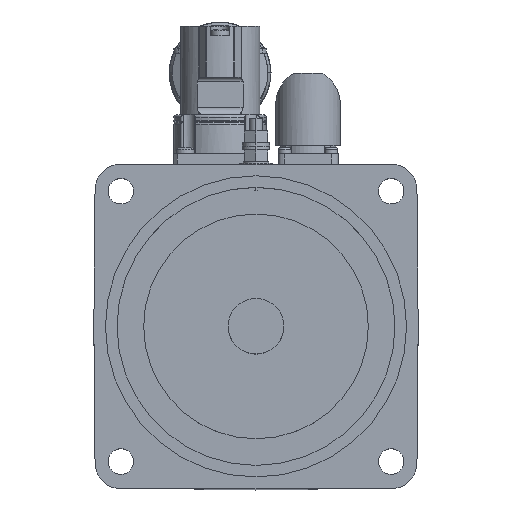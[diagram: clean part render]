
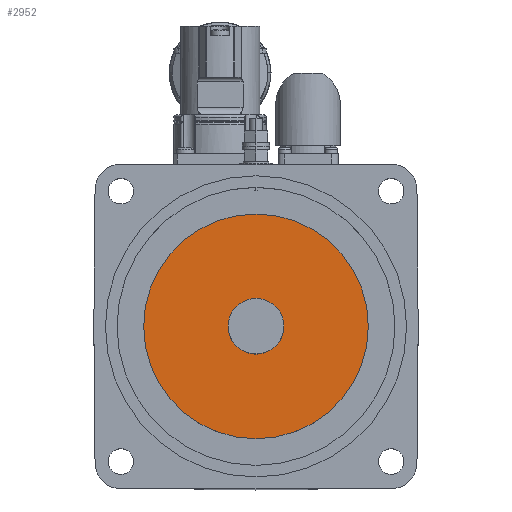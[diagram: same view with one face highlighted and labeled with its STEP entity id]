
A CAD part, top view. The second image highlights one B-rep face of the part: STEP entity #2952.
In plain terms, the highlighted planar face has unit normal (0, 0, 1).
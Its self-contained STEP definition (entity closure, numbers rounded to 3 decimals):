
#1529 = ORIENTED_EDGE ( 'NONE', *, *, #30829, .F. ) ;
#1530 = ORIENTED_EDGE ( 'NONE', *, *, #30732, .F. ) ;
#1531 = ORIENTED_EDGE ( 'NONE', *, *, #30737, .F. ) ;
#1532 = ORIENTED_EDGE ( 'NONE', *, *, #30820, .F. ) ;
#2952 = ADVANCED_FACE ( 'NONE', ( #8169, #8170 ), #29500, .F. ) ;
#6681 = AXIS2_PLACEMENT_3D ( 'NONE', #29510, #29498, #29497 ) ;
#8169 = FACE_OUTER_BOUND ( 'NONE', #20006, .T. ) ;
#8170 = FACE_BOUND ( 'NONE', #19980, .T. ) ;
#17169 = CARTESIAN_POINT ( 'NONE',  ( -48.5, 0., -4.5 ) ) ;
#17339 = CARTESIAN_POINT ( 'NONE',  ( -12., 0., -4.5 ) ) ;
#17476 = CARTESIAN_POINT ( 'NONE',  ( 12., 0., -4.5 ) ) ;
#17484 = CARTESIAN_POINT ( 'NONE',  ( 48.5, 0., -4.5 ) ) ;
#19980 = EDGE_LOOP ( 'NONE', ( #1531, #1532 ) ) ;
#20006 = EDGE_LOOP ( 'NONE', ( #1529, #1530 ) ) ;
#21638 = CARTESIAN_POINT ( 'NONE',  ( 0., 0., -4.5 ) ) ;
#21639 = DIRECTION ( 'NONE',  ( 0., 0., -1. ) ) ;
#21640 = DIRECTION ( 'NONE',  ( -1., 0., 0. ) ) ;
#21650 = CARTESIAN_POINT ( 'NONE',  ( 0., 0., -4.5 ) ) ;
#21653 = DIRECTION ( 'NONE',  ( 0., 0., 1. ) ) ;
#21654 = DIRECTION ( 'NONE',  ( -1., 0., 0. ) ) ;
#22218 = CIRCLE ( 'NONE', #22714, 48.5 ) ;
#22228 = CIRCLE ( 'NONE', #22715, 12. ) ;
#22358 = CIRCLE ( 'NONE', #22753, 12. ) ;
#22367 = CIRCLE ( 'NONE', #22760, 48.5 ) ;
#22714 = AXIS2_PLACEMENT_3D ( 'NONE', #21638, #21639, #21640 ) ;
#22715 = AXIS2_PLACEMENT_3D ( 'NONE', #21650, #21653, #21654 ) ;
#22753 = AXIS2_PLACEMENT_3D ( 'NONE', #23143, #23165, #23166 ) ;
#22760 = AXIS2_PLACEMENT_3D ( 'NONE', #23184, #23191, #23192 ) ;
#23143 = CARTESIAN_POINT ( 'NONE',  ( 0., 0., -4.5 ) ) ;
#23165 = DIRECTION ( 'NONE',  ( 0., 0., 1. ) ) ;
#23166 = DIRECTION ( 'NONE',  ( -1., 0., 0. ) ) ;
#23184 = CARTESIAN_POINT ( 'NONE',  ( 0., 0., -4.5 ) ) ;
#23191 = DIRECTION ( 'NONE',  ( 0., 0., -1. ) ) ;
#23192 = DIRECTION ( 'NONE',  ( -1., 0., 0. ) ) ;
#27635 = VERTEX_POINT ( 'NONE', #17169 ) ;
#28710 = VERTEX_POINT ( 'NONE', #17339 ) ;
#28847 = VERTEX_POINT ( 'NONE', #17476 ) ;
#28855 = VERTEX_POINT ( 'NONE', #17484 ) ;
#29497 = DIRECTION ( 'NONE',  ( -1., 0., 0. ) ) ;
#29498 = DIRECTION ( 'NONE',  ( 0., 0., -1. ) ) ;
#29500 = PLANE ( 'NONE',  #6681 ) ;
#29510 = CARTESIAN_POINT ( 'NONE',  ( 0., 48.5, -4.5 ) ) ;
#30732 = EDGE_CURVE ( 'NONE', #28855, #27635, #22218, .T. ) ;
#30737 = EDGE_CURVE ( 'NONE', #28710, #28847, #22228, .T. ) ;
#30820 = EDGE_CURVE ( 'NONE', #28847, #28710, #22358, .T. ) ;
#30829 = EDGE_CURVE ( 'NONE', #27635, #28855, #22367, .T. ) ;
